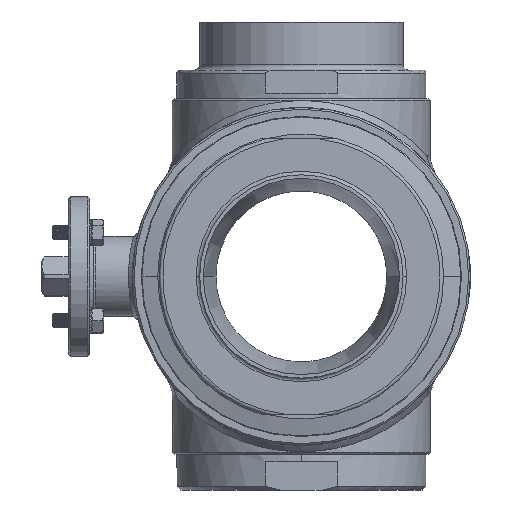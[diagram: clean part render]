
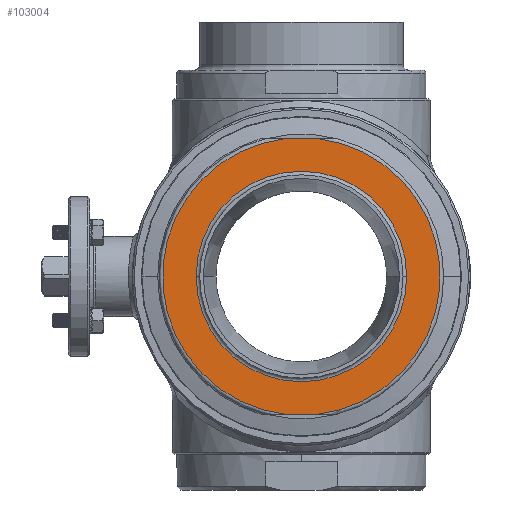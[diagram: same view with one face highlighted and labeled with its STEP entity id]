
A CAD part, left-side view. The second image highlights one B-rep face of the part: STEP entity #103004.
In plain terms, the highlighted planar face has unit normal (-1, 0, 0).
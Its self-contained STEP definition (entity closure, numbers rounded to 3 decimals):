
#48488=CARTESIAN_POINT('',(-116.,0.,0.));
#48489=DIRECTION('',(-1.,0.,0.));
#48490=DIRECTION('',(0.,-0.113,-0.994));
#48491=AXIS2_PLACEMENT_3D('',#48488,#48489,#48490);
#48496=CARTESIAN_POINT('',(-116.,8.818,-77.5));
#48702=CARTESIAN_POINT('',(-116.,8.818,77.5));
#48729=CARTESIAN_POINT('',(-116.,0.,0.));
#48730=DIRECTION('',(-1.,0.,0.));
#48731=DIRECTION('',(0.,0.113,0.994));
#48732=AXIS2_PLACEMENT_3D('',#48729,#48730,#48731);
#48737=DIRECTION('',(0.,1.,0.));
#48738=VECTOR('',#48737,17.635);
#48739=CARTESIAN_POINT('',(-116.,-8.818,77.5));
#48740=LINE('',#48739,#48738);
#48744=DIRECTION('',(0.,1.,0.));
#48745=VECTOR('',#48744,17.635);
#48746=CARTESIAN_POINT('',(-116.,-8.818,-77.5));
#48747=LINE('',#48746,#48745);
#48751=CARTESIAN_POINT('',(-116.,0.,0.));
#48752=DIRECTION('',(-1.,0.,0.));
#48753=DIRECTION('',(0.,1.,0.));
#48754=AXIS2_PLACEMENT_3D('',#48751,#48752,#48753);
#48759=CARTESIAN_POINT('',(-116.,0.,0.));
#48760=DIRECTION('',(-1.,0.,0.));
#48761=DIRECTION('',(0.,-1.,0.));
#48762=AXIS2_PLACEMENT_3D('',#48759,#48760,#48761);
#57802=VERTEX_POINT('',#48702);
#57803=VERTEX_POINT('',#48496);
#57805=CARTESIAN_POINT('',(-116.,-8.818,77.5));
#57806=VERTEX_POINT('',#57805);
#57807=CARTESIAN_POINT('',(-116.,-8.818,-77.5));
#57808=VERTEX_POINT('',#57807);
#57809=CARTESIAN_POINT('',(-116.,59.15,0.));
#57810=CARTESIAN_POINT('',(-116.,-59.15,0.));
#57811=VERTEX_POINT('',#57809);
#57812=VERTEX_POINT('',#57810);
#102987=CARTESIAN_POINT('',(-116.,0.,0.));
#102988=DIRECTION('',(-1.,0.,0.));
#102989=DIRECTION('',(0.,-1.,0.));
#102990=AXIS2_PLACEMENT_3D('',#102987,#102988,#102989);
#102991=PLANE('',#102990);
#102992=ORIENTED_EDGE('',*,*,#102974,.F.);
#102993=ORIENTED_EDGE('',*,*,#102933,.F.);
#102994=ORIENTED_EDGE('',*,*,#102839,.F.);
#102995=ORIENTED_EDGE('',*,*,#102867,.T.);
#102996=EDGE_LOOP('',(#102992,#102993,#102994,#102995));
#102997=FACE_OUTER_BOUND('',#102996,.F.);
#102999=ORIENTED_EDGE('',*,*,#102998,.T.);
#103001=ORIENTED_EDGE('',*,*,#103000,.T.);
#103002=EDGE_LOOP('',(#102999,#103001));
#103003=FACE_BOUND('',#103002,.F.);
#103004=ADVANCED_FACE('',(#102997,#103003),#102991,.T.);
#48492=CIRCLE('',#48491,78.);
#48733=CIRCLE('',#48732,78.);
#48755=CIRCLE('',#48754,59.15);
#48763=CIRCLE('',#48762,59.15);
#102839=EDGE_CURVE('',#57808,#57806,#48492,.T.);
#102867=EDGE_CURVE('',#57808,#57803,#48747,.T.);
#102933=EDGE_CURVE('',#57806,#57802,#48740,.T.);
#102974=EDGE_CURVE('',#57802,#57803,#48733,.T.);
#102998=EDGE_CURVE('',#57811,#57812,#48755,.T.);
#103000=EDGE_CURVE('',#57812,#57811,#48763,.T.);
